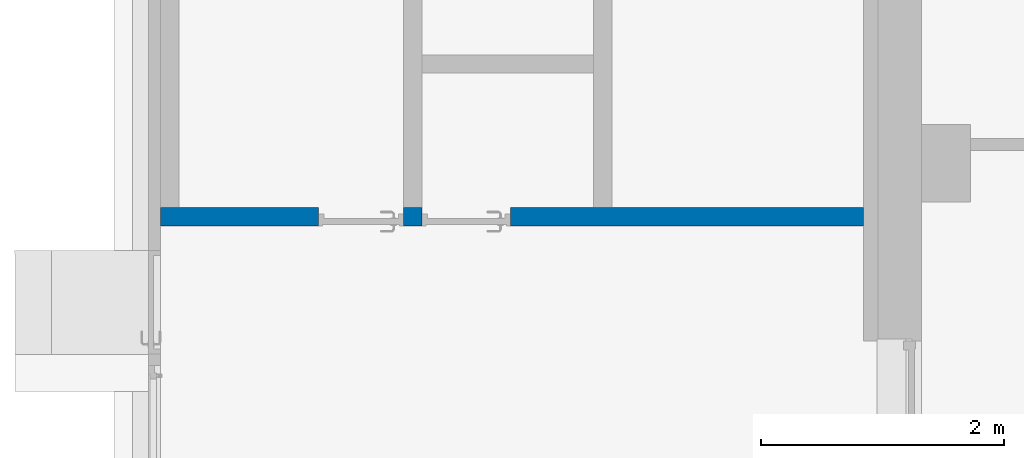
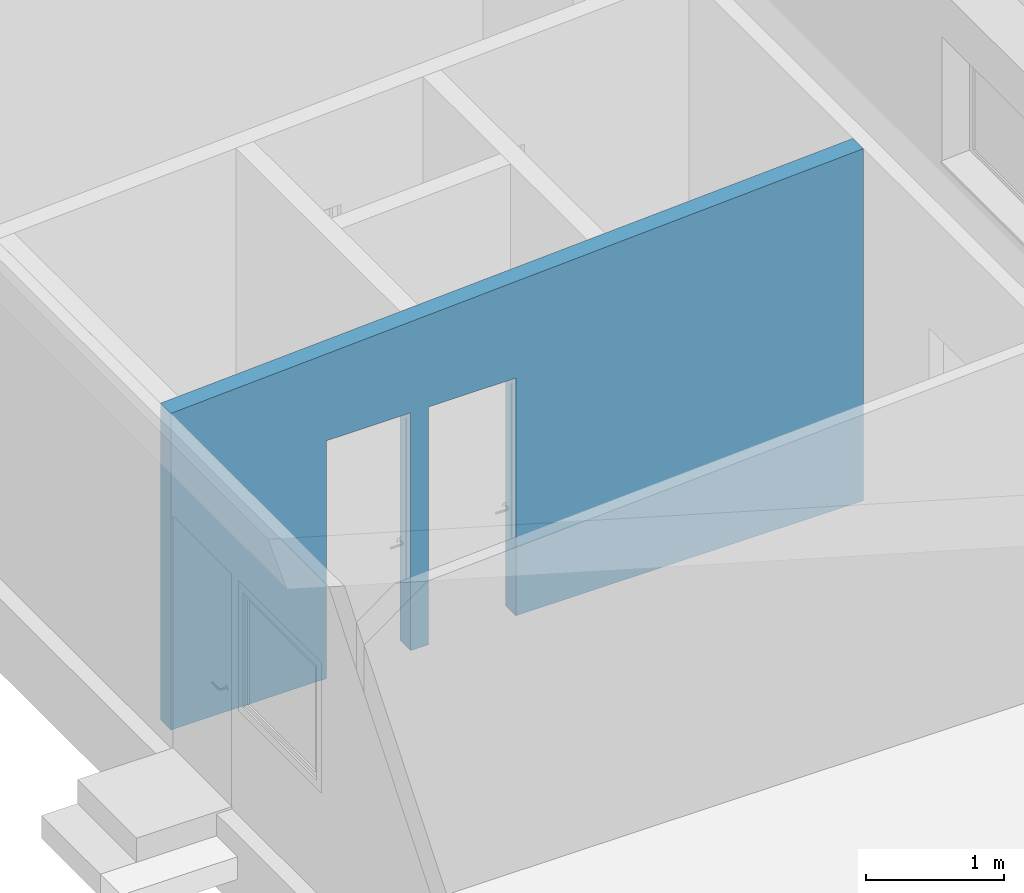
# One storey, part 149 of 301: 1 wall, 2 openings.
"""IFC2X3 building model written with IfcOpenShell, lengths in millimetres."""

from ifc_helpers import new_model, entity, si_unit, converted_unit, derived_unit, money_unit, direction, frame, origin_with_axes, place, context, subcontext, project, spatial, faceted_brep, material, type_object, element, save


model = new_model("IFC2X3")

# Units and contexts
model_context = context("Model", 3, precision=0.01, world=origin_with_axes(), true_north=direction((0.0, 1.0)))
body_context = subcontext(model_context, "Body", "Model", "MODEL_VIEW")
ifc_project = project(units=[si_unit("LENGTHUNIT", "METRE", prefix="MILLI"), si_unit("AREAUNIT", "SQUARE_METRE"), si_unit("VOLUMEUNIT", "CUBIC_METRE"), converted_unit("PLANEANGLEUNIT", "DEGREE", entity("IfcPlaneAngleMeasure", 0.0174532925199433), si_unit("PLANEANGLEUNIT", "RADIAN"), dimensions=[0, 0, 0, 0, 0, 0, 0]), money_unit("EUR"), converted_unit("TIMEUNIT", "Year", entity("IfcTimeMeasure", 31557600.0), si_unit("TIMEUNIT", "SECOND"), dimensions=[0, 0, 1, 0, 0, 0, 0]), si_unit("MASSUNIT", "GRAM", prefix="KILO"), si_unit("THERMODYNAMICTEMPERATUREUNIT", "DEGREE_CELSIUS"), si_unit("LUMINOUSINTENSITYUNIT", "LUMEN"), si_unit("ENERGYUNIT", "JOULE", prefix="MEGA"), derived_unit("THERMALCONDUCTANCEUNIT", [(si_unit("POWERUNIT", "WATT"), 1), (si_unit("LENGTHUNIT", "METRE"), -1), (si_unit("THERMODYNAMICTEMPERATUREUNIT", "KELVIN"), -1)]), derived_unit("SPECIFICHEATCAPACITYUNIT", [(si_unit("ENERGYUNIT", "JOULE"), 1), (si_unit("MASSUNIT", "GRAM", prefix="KILO"), -1), (si_unit("THERMODYNAMICTEMPERATUREUNIT", "KELVIN"), -1)]), derived_unit("MASSDENSITYUNIT", [(si_unit("MASSUNIT", "GRAM", prefix="KILO"), 1), (si_unit("VOLUMEUNIT", "CUBIC_METRE"), -1)])], contexts=[model_context])

# Site, building, storey
site_placement = place(None, frame((0.0, 0.0, 8650.0), z_axis=(0.0, 0.0, 1.0), x_axis=(1.0, 0.0, 0.0)))
site = spatial("IfcSite", under=ifc_project, at=site_placement, Name="43301:001:0844", CompositionType="ELEMENT")
building_placement = place(site_placement, origin_with_axes())
building = spatial("IfcBuilding", under=site, at=building_placement, Name="Kuressaare Ametikooli tuulikute mehaanikute õppekorpus", CompositionType="ELEMENT")
storey_placement = place(building_placement, origin_with_axes())
storey = spatial("IfcBuildingStorey", under=building, at=storey_placement, Name="1.korrus", CompositionType="ELEMENT", Elevation=0.0)

# Wall, openings
ifc_material = material(Name="GENEERILINE - KONSTRUKTRIOON")
wall_type = type_object("IfcWallType", Name="GENEERILINE - KONSTRUKTRIOON 150", PredefinedType="NOTDEFINED")
wall_placement = place(storey_placement, frame((87898.75644683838, 91886.7517358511, -330.0), z_axis=(0.0, 0.0, 1.0), x_axis=(-1.0, 0.0, 0.0)))
wall = element("IfcWall", 1, at=wall_placement, inside=storey, type_object=wall_type, material=ifc_material, context=body_context, shape_type="Brep", body=[
    faceted_brep([(5906.697168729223, -150.0000000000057, 2797.011345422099), (120.0000000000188, -150.0000000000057, 3110.404188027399), (120.0000000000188, -150.0000000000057, 0.0), (3024.812150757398, -150.0000000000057, 0.0), (3024.812150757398, -150.0000000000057, 2100.0), (3754.812150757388, -150.0000000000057, 2100.0), (3754.812150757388, -150.0000000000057, 0.0), (3904.812150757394, -150.0000000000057, 0.0), (3904.812150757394, -150.0000000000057, 2100.0), (4604.812150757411, -150.0000000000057, 2100.0), (4604.812150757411, -150.0000000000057, 0.0), (5906.697168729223, -150.0000000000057, 0.0), (120.0000000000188, 0.0, 3110.365940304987), (5906.698317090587, 0.0, 2796.973035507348), (120.0000000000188, 0.0, 0.0), (3024.812150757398, 0.0, 0.0), (3024.812150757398, 0.0, 2100.0), (3754.812150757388, 0.0, 2100.0), (3754.812150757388, 0.0, 0.0), (3904.812150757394, 0.0, 0.0), (3904.812150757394, 0.0, 2100.0), (4604.812150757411, 0.0, 2100.0), (4604.812150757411, 0.0, 0.0), (5906.698317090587, 0.0, 0.0)], [[[0, 1, 2, 3, 4, 5, 6, 7, 8, 9, 10, 11]], [[12, 1, 0, 13]], [[1, 12, 14, 2]], [[15, 3, 2, 14]], [[4, 3, 15, 16]], [[5, 4, 16, 17]], [[6, 5, 17, 18]], [[18, 19, 7, 6]], [[20, 8, 7, 19]], [[21, 9, 8, 20]], [[22, 10, 9, 21]], [[11, 10, 22, 23]], [[13, 0, 11, 23]], [[12, 13, 23, 22, 21, 20, 19, 18, 17, 16, 15, 14]]]),
])
opening_1_placement = place(wall_placement, frame((4254.812150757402, 0.0, 0.0), z_axis=(0.0, 0.0, 1.0), x_axis=(1.0, 0.0, 0.0)))
element("IfcOpeningElement", 2, at=opening_1_placement, cuts=wall, Name="SU-XX", context=body_context, shape_type="Brep", body=[
    faceted_brep([(-350.0000000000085, -151.0000000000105, 2100.0), (-350.0000000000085, -151.0000000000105, 0.0), (350.0000000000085, -151.0000000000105, 0.0), (350.0000000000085, -151.0000000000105, 2100.0), (-350.0000000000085, 1.000000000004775, 2100.0), (-350.0000000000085, 1.000000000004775, 0.0), (350.0000000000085, 1.000000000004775, 0.0), (350.0000000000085, 1.000000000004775, 2100.0)], [[[0, 1, 2, 3]], [[4, 5, 1, 0]], [[5, 6, 2, 1]], [[6, 7, 3, 2]], [[7, 4, 0, 3]], [[6, 5, 4, 7]]]),
])
opening_2_placement = place(wall_placement, frame((3389.812150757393, 0.0, 0.0), z_axis=(0.0, 0.0, 1.0), x_axis=(1.0, 0.0, 0.0)))
element("IfcOpeningElement", 3, at=opening_2_placement, cuts=wall, Name="SU-XX", context=body_context, shape_type="Brep", body=[
    faceted_brep([(-364.9999999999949, -151.0000000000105, 2100.0), (-364.9999999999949, -151.0000000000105, 0.0), (364.9999999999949, -151.0000000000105, 0.0), (364.9999999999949, -151.0000000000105, 2100.0), (-364.9999999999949, 1.000000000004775, 2100.0), (-364.9999999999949, 1.000000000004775, 0.0), (364.9999999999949, 1.000000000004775, 0.0), (364.9999999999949, 1.000000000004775, 2100.0)], [[[0, 1, 2, 3]], [[4, 5, 1, 0]], [[5, 6, 2, 1]], [[6, 7, 3, 2]], [[7, 4, 0, 3]], [[6, 5, 4, 7]]]),
])

save(model, "model.ifc")
